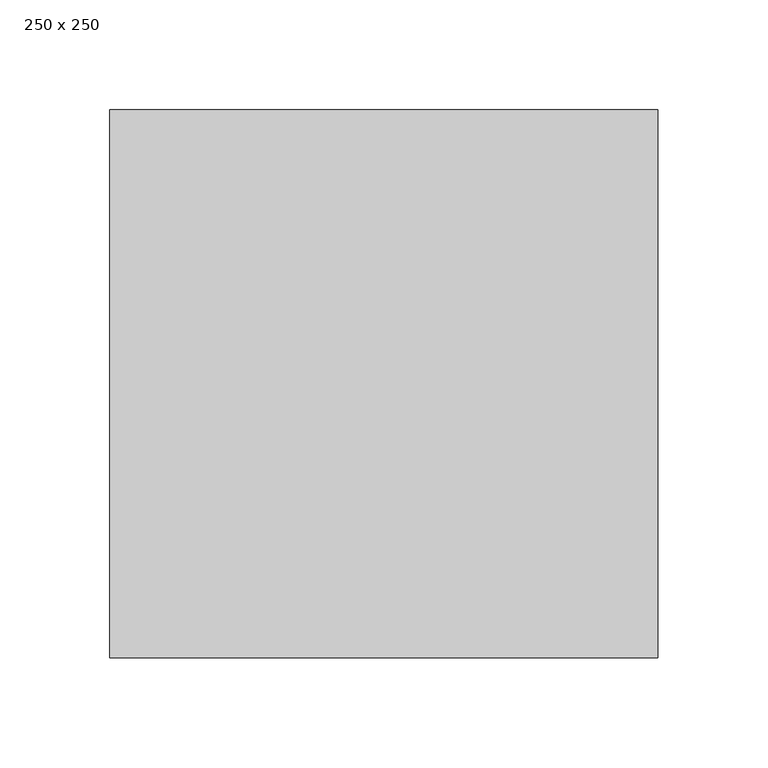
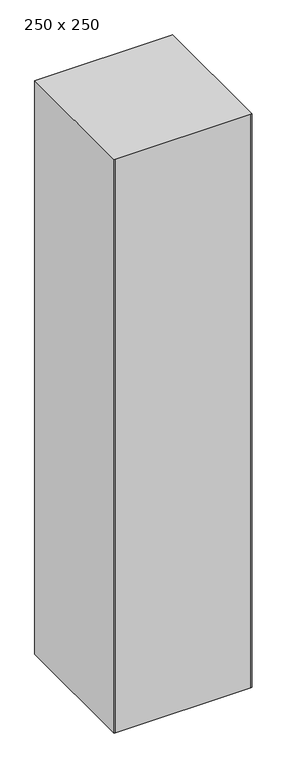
"""IFC4 building model written with IfcOpenShell, lengths in millimetres: column geometry, Poteau précoulé - Carré : 250 x 250."""

from ifc_helpers import new_model, si_unit, frame, origin, place, context, project, spatial, polyline, outline, extrude, source, transform, mapped, element, save


def column_250_x_250_77015084(model_context):
    return source(origin(), model_context, "Body", "SweptSolid", [
        extrude(outline(polyline([(98.0, 150.0), (100.0, 150.0), (100.0, -100.0), (98.0, -100.0), (-148.0, -100.0), (-150.0, -100.0), (-150.0, 150.0), (-148.0, 150.0), (98.0, 150.0)])), frame((0.0, 0.0, -1100.0), z_axis=(0.0, 0.0, 1.0), x_axis=(1.0, 0.0, 0.0)), (0.0, 0.0, 1.0), 1100.0),
    ])


if __name__ == "__main__":
    model = new_model("IFC4")
    model_context = context("Model", 3, world=origin())
    ifc_project = project(units=[si_unit("LENGTHUNIT", "METRE", prefix="MILLI")], contexts=[model_context])
    site = spatial("IfcSite", under=ifc_project)
    building = spatial("IfcBuilding", under=site)
    placement = place(None, origin())
    column_250_x_250_shape = column_250_x_250_77015084(model_context)
    element("IfcColumn", 1, ObjectType="Poteau précoulé - Carré : 250 x 250", at=placement, inside=building, context=model_context, shape_type="MappedRepresentation", body=[
        mapped(column_250_x_250_shape, transform((0.0, 0.0, 0.0), x_axis=(1.0, 0.0, 0.0), y_axis=(0.0, 1.0, 0.0), z_axis=(0.0, 0.0, 1.0))),
    ])
    save(model, "model.ifc")
